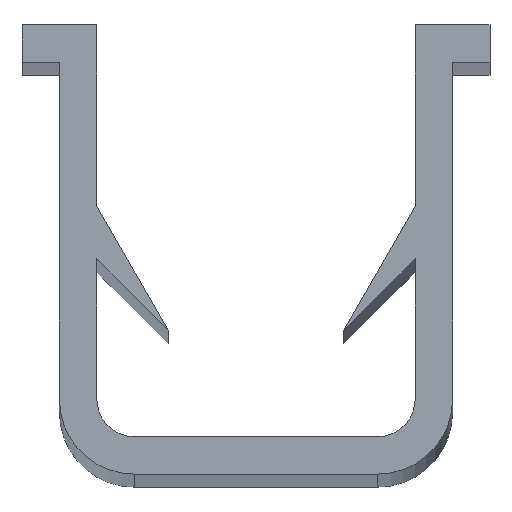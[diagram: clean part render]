
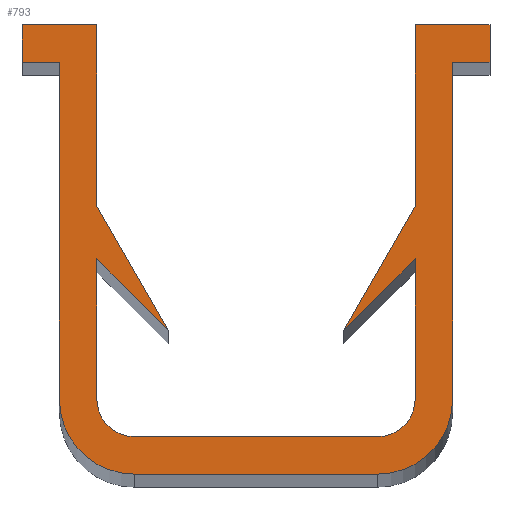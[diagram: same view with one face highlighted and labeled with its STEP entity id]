
A CAD part, top view. The second image highlights one B-rep face of the part: STEP entity #793.
In plain terms, the highlighted planar face has unit normal (0, 0, 1).
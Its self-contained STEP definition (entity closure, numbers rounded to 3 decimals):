
#51=CARTESIAN_POINT('',(4.25,7.148,200.0));
#52=VERTEX_POINT('',#51);
#59=CARTESIAN_POINT('',(4.25,12.,200.0));
#60=VERTEX_POINT('',#59);
#61=CARTESIAN_POINT('',(4.25,7.148,200.0));
#62=DIRECTION('',(0.0,1.0,0.0));
#63=VECTOR('',#62,4.852);
#64=LINE('',#61,#63);
#65=EDGE_CURVE('',#52,#60,#64,.T.);
#91=CARTESIAN_POINT('',(4.25,5.748,200.0));
#92=VERTEX_POINT('',#91);
#107=CARTESIAN_POINT('',(4.25,2.,200.0));
#108=VERTEX_POINT('',#107);
#115=CARTESIAN_POINT('',(4.25,2.,200.0));
#116=DIRECTION('',(0.0,1.0,0.0));
#117=VECTOR('',#116,3.748);
#118=LINE('',#115,#117);
#119=EDGE_CURVE('',#108,#92,#118,.T.);
#129=CARTESIAN_POINT('',(-6.25,12.,200.0));
#130=VERTEX_POINT('',#129);
#131=CARTESIAN_POINT('',(-4.25,12.,200.0));
#132=VERTEX_POINT('',#131);
#133=CARTESIAN_POINT('',(-6.25,12.,200.0));
#134=DIRECTION('',(1.0,0.0,0.0));
#135=VECTOR('',#134,2.);
#136=LINE('',#133,#135);
#137=EDGE_CURVE('',#130,#132,#136,.T.);
#169=CARTESIAN_POINT('',(-4.25,7.148,200.0));
#170=VERTEX_POINT('',#169);
#171=CARTESIAN_POINT('',(-4.25,12.,200.0));
#172=DIRECTION('',(0.0,-1.0,0.0));
#173=VECTOR('',#172,4.852);
#174=LINE('',#171,#173);
#175=EDGE_CURVE('',#132,#170,#174,.T.);
#200=CARTESIAN_POINT('',(-2.338,3.836,200.0));
#201=VERTEX_POINT('',#200);
#202=CARTESIAN_POINT('',(-4.25,7.148,200.0));
#203=DIRECTION('',(0.5,-0.866,0.0));
#204=VECTOR('',#203,3.825);
#205=LINE('',#202,#204);
#206=EDGE_CURVE('',#170,#201,#205,.T.);
#231=CARTESIAN_POINT('',(-4.25,5.748,200.0));
#232=VERTEX_POINT('',#231);
#233=CARTESIAN_POINT('',(-2.338,3.836,200.0));
#234=DIRECTION('',(-0.707,0.707,0.0));
#235=VECTOR('',#234,2.705);
#236=LINE('',#233,#235);
#237=EDGE_CURVE('',#201,#232,#236,.T.);
#262=CARTESIAN_POINT('',(-4.25,2.,200.0));
#263=VERTEX_POINT('',#262);
#264=CARTESIAN_POINT('',(-4.25,5.748,200.0));
#265=DIRECTION('',(0.0,-1.0,0.0));
#266=VECTOR('',#265,3.748);
#267=LINE('',#264,#266);
#268=EDGE_CURVE('',#232,#263,#267,.T.);
#293=CARTESIAN_POINT('',(-3.25,1.,200.0));
#294=VERTEX_POINT('',#293);
#295=CARTESIAN_POINT('',(-3.25,2.,200.0));
#296=DIRECTION('',(0.0,0.0,1.0));
#297=DIRECTION('',(1.0,0.0,0.0));
#298=AXIS2_PLACEMENT_3D('',#295,#296,#297);
#299=CIRCLE('',#298,1.);
#300=EDGE_CURVE('',#263,#294,#299,.T.);
#326=CARTESIAN_POINT('',(3.25,1.,200.0));
#327=VERTEX_POINT('',#326);
#328=CARTESIAN_POINT('',(-3.25,1.,200.0));
#329=DIRECTION('',(1.0,0.0,0.0));
#330=VECTOR('',#329,6.5);
#331=LINE('',#328,#330);
#332=EDGE_CURVE('',#294,#327,#331,.T.);
#357=CARTESIAN_POINT('',(3.25,2.,200.0));
#358=DIRECTION('',(0.0,0.0,1.0));
#359=DIRECTION('',(0.0,1.0,0.0));
#360=AXIS2_PLACEMENT_3D('',#357,#358,#359);
#361=CIRCLE('',#360,1.0);
#362=EDGE_CURVE('',#327,#108,#361,.T.);
#381=CARTESIAN_POINT('',(6.25,12.,200.0));
#382=VERTEX_POINT('',#381);
#383=CARTESIAN_POINT('',(4.25,12.,200.0));
#384=DIRECTION('',(1.0,0.0,0.0));
#385=VECTOR('',#384,2.);
#386=LINE('',#383,#385);
#387=EDGE_CURVE('',#60,#382,#386,.T.);
#412=CARTESIAN_POINT('',(6.25,11.0,200.0));
#413=VERTEX_POINT('',#412);
#414=CARTESIAN_POINT('',(6.25,12.,200.0));
#415=DIRECTION('',(0.0,-1.0,0.0));
#416=VECTOR('',#415,1.);
#417=LINE('',#414,#416);
#418=EDGE_CURVE('',#382,#413,#417,.T.);
#443=CARTESIAN_POINT('',(5.25,11.0,200.0));
#444=VERTEX_POINT('',#443);
#445=CARTESIAN_POINT('',(6.25,11.0,200.0));
#446=DIRECTION('',(-1.0,0.0,0.0));
#447=VECTOR('',#446,1.0);
#448=LINE('',#445,#447);
#449=EDGE_CURVE('',#413,#444,#448,.T.);
#474=CARTESIAN_POINT('',(5.25,2.,200.0));
#475=VERTEX_POINT('',#474);
#476=CARTESIAN_POINT('',(5.25,11.0,200.0));
#477=DIRECTION('',(0.0,-1.0,0.0));
#478=VECTOR('',#477,9.);
#479=LINE('',#476,#478);
#480=EDGE_CURVE('',#444,#475,#479,.T.);
#505=CARTESIAN_POINT('',(3.25,0.,200.0));
#506=VERTEX_POINT('',#505);
#507=CARTESIAN_POINT('',(3.25,2.,200.0));
#508=DIRECTION('',(0.0,0.0,-1.0));
#509=DIRECTION('',(0.0,-1.0,0.0));
#510=AXIS2_PLACEMENT_3D('',#507,#508,#509);
#511=CIRCLE('',#510,2.);
#512=EDGE_CURVE('',#475,#506,#511,.T.);
#538=CARTESIAN_POINT('',(-3.25,0.,200.0));
#539=VERTEX_POINT('',#538);
#540=CARTESIAN_POINT('',(3.25,0.,200.0));
#541=DIRECTION('',(-1.0,0.0,0.0));
#542=VECTOR('',#541,6.5);
#543=LINE('',#540,#542);
#544=EDGE_CURVE('',#506,#539,#543,.T.);
#569=CARTESIAN_POINT('',(-5.25,2.,200.0));
#570=VERTEX_POINT('',#569);
#571=CARTESIAN_POINT('',(-3.25,2.,200.0));
#572=DIRECTION('',(0.0,0.0,-1.0));
#573=DIRECTION('',(-1.0,0.0,0.0));
#574=AXIS2_PLACEMENT_3D('',#571,#572,#573);
#575=CIRCLE('',#574,2.);
#576=EDGE_CURVE('',#539,#570,#575,.T.);
#602=CARTESIAN_POINT('',(-5.25,11.0,200.0));
#603=VERTEX_POINT('',#602);
#604=CARTESIAN_POINT('',(-5.25,2.,200.0));
#605=DIRECTION('',(0.0,1.0,0.0));
#606=VECTOR('',#605,9.0);
#607=LINE('',#604,#606);
#608=EDGE_CURVE('',#570,#603,#607,.T.);
#633=CARTESIAN_POINT('',(-6.25,11.0,200.0));
#634=VERTEX_POINT('',#633);
#635=CARTESIAN_POINT('',(-5.25,11.0,200.0));
#636=DIRECTION('',(-1.0,0.0,0.0));
#637=VECTOR('',#636,1.);
#638=LINE('',#635,#637);
#639=EDGE_CURVE('',#603,#634,#638,.T.);
#664=CARTESIAN_POINT('',(-6.25,11.0,200.0));
#665=DIRECTION('',(0.0,1.0,0.0));
#666=VECTOR('',#665,1.);
#667=LINE('',#664,#666);
#668=EDGE_CURVE('',#634,#130,#667,.T.);
#686=CARTESIAN_POINT('',(2.338,3.836,200.0));
#687=VERTEX_POINT('',#686);
#688=CARTESIAN_POINT('',(4.25,5.748,200.0));
#689=DIRECTION('',(-0.707,-0.707,0.0));
#690=VECTOR('',#689,2.705);
#691=LINE('',#688,#690);
#692=EDGE_CURVE('',#92,#687,#691,.T.);
#717=CARTESIAN_POINT('',(2.338,3.836,200.0));
#718=DIRECTION('',(0.5,0.866,0.0));
#719=VECTOR('',#718,3.825);
#720=LINE('',#717,#719);
#721=EDGE_CURVE('',#687,#52,#720,.T.);
#764=CARTESIAN_POINT('',(3.463,5.422,200.0));
#765=DIRECTION('',(0.0,0.0,1.0));
#766=DIRECTION('',(1.0,0.0,0.0));
#767=AXIS2_PLACEMENT_3D('',#764,#765,#766);
#768=PLANE('',#767);
#769=ORIENTED_EDGE('',*,*,#721,.F.);
#770=ORIENTED_EDGE('',*,*,#692,.F.);
#771=ORIENTED_EDGE('',*,*,#119,.F.);
#772=ORIENTED_EDGE('',*,*,#362,.F.);
#773=ORIENTED_EDGE('',*,*,#332,.F.);
#774=ORIENTED_EDGE('',*,*,#300,.F.);
#775=ORIENTED_EDGE('',*,*,#268,.F.);
#776=ORIENTED_EDGE('',*,*,#237,.F.);
#777=ORIENTED_EDGE('',*,*,#206,.F.);
#778=ORIENTED_EDGE('',*,*,#175,.F.);
#779=ORIENTED_EDGE('',*,*,#137,.F.);
#780=ORIENTED_EDGE('',*,*,#668,.F.);
#781=ORIENTED_EDGE('',*,*,#639,.F.);
#782=ORIENTED_EDGE('',*,*,#608,.F.);
#783=ORIENTED_EDGE('',*,*,#576,.F.);
#784=ORIENTED_EDGE('',*,*,#544,.F.);
#785=ORIENTED_EDGE('',*,*,#512,.F.);
#786=ORIENTED_EDGE('',*,*,#480,.F.);
#787=ORIENTED_EDGE('',*,*,#449,.F.);
#788=ORIENTED_EDGE('',*,*,#418,.F.);
#789=ORIENTED_EDGE('',*,*,#387,.F.);
#790=ORIENTED_EDGE('',*,*,#65,.F.);
#791=EDGE_LOOP('',(#769,#770,#771,#772,#773,#774,#775,#776,#777,#778,#779,#780,#781,#782,#783,#784,#785,#786,#787,#788,#789,#790));
#792=FACE_OUTER_BOUND('',#791,.T.);
#793=ADVANCED_FACE('',(#792),#768,.T.);
